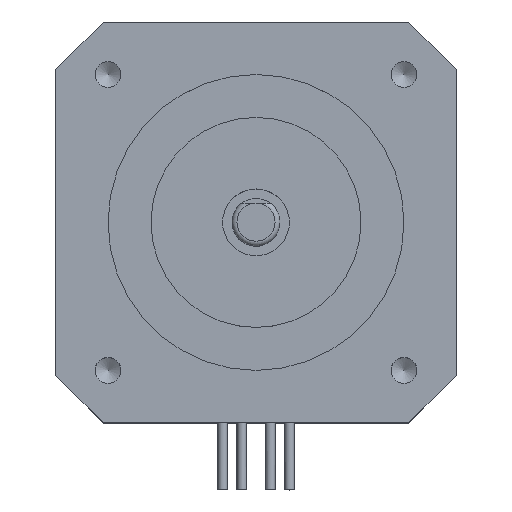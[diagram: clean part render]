
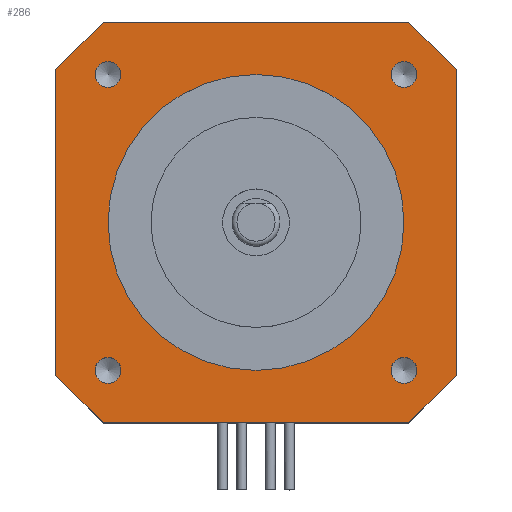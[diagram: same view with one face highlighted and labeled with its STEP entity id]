
A CAD part, top view. The second image highlights one B-rep face of the part: STEP entity #286.
In plain terms, the highlighted planar face has unit normal (0, 0, 1).
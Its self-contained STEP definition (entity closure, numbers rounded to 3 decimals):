
#142=FACE_BOUND('',#769,.T.);
#143=FACE_BOUND('',#770,.T.);
#144=FACE_BOUND('',#771,.T.);
#145=FACE_BOUND('',#772,.T.);
#146=FACE_BOUND('',#773,.T.);
#147=FACE_BOUND('',#774,.T.);
#226=CIRCLE('',#3421,1.35);
#227=CIRCLE('',#3422,1.35);
#228=CIRCLE('',#3423,1.35);
#229=CIRCLE('',#3424,1.35);
#230=CIRCLE('',#3425,15.5);
#286=ADVANCED_FACE('',(#142,#143,#144,#145,#146,#147),#465,.F.);
#465=PLANE('',#3426);
#769=EDGE_LOOP('',(#1175));
#770=EDGE_LOOP('',(#1176));
#771=EDGE_LOOP('',(#1177));
#772=EDGE_LOOP('',(#1178));
#773=EDGE_LOOP('',(#1179,#1180,#1181,#1182,#1183,#1184,#1185,#1186));
#774=EDGE_LOOP('',(#1187));
#1175=ORIENTED_EDGE('',*,*,#2342,.T.);
#1176=ORIENTED_EDGE('',*,*,#2343,.T.);
#1177=ORIENTED_EDGE('',*,*,#2344,.T.);
#1178=ORIENTED_EDGE('',*,*,#2345,.T.);
#1179=ORIENTED_EDGE('',*,*,#2346,.F.);
#1180=ORIENTED_EDGE('',*,*,#2347,.T.);
#1181=ORIENTED_EDGE('',*,*,#2348,.F.);
#1182=ORIENTED_EDGE('',*,*,#2349,.T.);
#1183=ORIENTED_EDGE('',*,*,#2350,.F.);
#1184=ORIENTED_EDGE('',*,*,#2351,.T.);
#1185=ORIENTED_EDGE('',*,*,#2352,.F.);
#1186=ORIENTED_EDGE('',*,*,#2353,.T.);
#1187=ORIENTED_EDGE('',*,*,#2354,.T.);
#2003=VERTEX_POINT('',#4842);
#2004=VERTEX_POINT('',#4844);
#2005=VERTEX_POINT('',#4846);
#2006=VERTEX_POINT('',#4848);
#2007=VERTEX_POINT('',#4850);
#2008=VERTEX_POINT('',#4851);
#2009=VERTEX_POINT('',#4853);
#2010=VERTEX_POINT('',#4855);
#2011=VERTEX_POINT('',#4857);
#2012=VERTEX_POINT('',#4859);
#2013=VERTEX_POINT('',#4861);
#2014=VERTEX_POINT('',#4863);
#2015=VERTEX_POINT('',#4866);
#2342=EDGE_CURVE('',#2003,#2003,#226,.T.);
#2343=EDGE_CURVE('',#2004,#2004,#227,.T.);
#2344=EDGE_CURVE('',#2005,#2005,#228,.T.);
#2345=EDGE_CURVE('',#2006,#2006,#229,.T.);
#2346=EDGE_CURVE('',#2007,#2008,#2759,.T.);
#2347=EDGE_CURVE('',#2007,#2009,#2760,.T.);
#2348=EDGE_CURVE('',#2010,#2009,#2761,.T.);
#2349=EDGE_CURVE('',#2010,#2011,#2762,.T.);
#2350=EDGE_CURVE('',#2012,#2011,#2763,.T.);
#2351=EDGE_CURVE('',#2012,#2013,#2764,.T.);
#2352=EDGE_CURVE('',#2014,#2013,#2765,.T.);
#2353=EDGE_CURVE('',#2014,#2008,#2766,.T.);
#2354=EDGE_CURVE('',#2015,#2015,#230,.T.);
#2759=LINE('',#4849,#3146);
#2760=LINE('',#4852,#3147);
#2761=LINE('',#4854,#3148);
#2762=LINE('',#4856,#3149);
#2763=LINE('',#4858,#3150);
#2764=LINE('',#4860,#3151);
#2765=LINE('',#4862,#3152);
#2766=LINE('',#4864,#3153);
#3146=VECTOR('',#3869,1.);
#3147=VECTOR('',#3870,1.);
#3148=VECTOR('',#3871,1.);
#3149=VECTOR('',#3872,1.);
#3150=VECTOR('',#3873,1.);
#3151=VECTOR('',#3874,1.);
#3152=VECTOR('',#3875,1.);
#3153=VECTOR('',#3876,1.);
#3421=AXIS2_PLACEMENT_3D('',#4841,#3861,#3862);
#3422=AXIS2_PLACEMENT_3D('',#4843,#3863,#3864);
#3423=AXIS2_PLACEMENT_3D('',#4845,#3865,#3866);
#3424=AXIS2_PLACEMENT_3D('',#4847,#3867,#3868);
#3425=AXIS2_PLACEMENT_3D('',#4865,#3877,#3878);
#3426=AXIS2_PLACEMENT_3D('',#4867,#3879,#3880);
#3861=DIRECTION('',(0.,0.,-1.));
#3862=DIRECTION('',(-1.,0.,0.));
#3863=DIRECTION('',(0.,0.,-1.));
#3864=DIRECTION('',(-1.,0.,0.));
#3865=DIRECTION('',(0.,0.,-1.));
#3866=DIRECTION('',(-1.,0.,0.));
#3867=DIRECTION('',(0.,0.,-1.));
#3868=DIRECTION('',(-1.,0.,0.));
#3869=DIRECTION('',(1.,0.,0.));
#3870=DIRECTION('',(-0.707,-0.707,0.));
#3871=DIRECTION('',(0.,1.,0.));
#3872=DIRECTION('',(0.707,-0.707,0.));
#3873=DIRECTION('',(-1.,0.,0.));
#3874=DIRECTION('',(0.707,0.707,0.));
#3875=DIRECTION('',(0.,-1.,0.));
#3876=DIRECTION('',(-0.707,0.707,0.));
#3877=DIRECTION('',(0.,0.,-1.));
#3878=DIRECTION('',(1.,0.,0.));
#3879=DIRECTION('',(0.,0.,-1.));
#3880=DIRECTION('',(-1.,0.,0.));
#4841=CARTESIAN_POINT('',(15.5,-15.5,0.));
#4842=CARTESIAN_POINT('',(14.15,-15.5,0.));
#4843=CARTESIAN_POINT('',(15.5,15.5,0.));
#4844=CARTESIAN_POINT('',(14.15,15.5,0.));
#4845=CARTESIAN_POINT('',(-15.5,15.5,0.));
#4846=CARTESIAN_POINT('',(-16.85,15.5,0.));
#4847=CARTESIAN_POINT('',(-15.5,-15.5,0.));
#4848=CARTESIAN_POINT('',(-16.85,-15.5,0.));
#4849=CARTESIAN_POINT('',(-21.,21.,0.));
#4850=CARTESIAN_POINT('',(-16.,21.,0.));
#4851=CARTESIAN_POINT('',(16.,21.,0.));
#4852=CARTESIAN_POINT('',(-16.,21.,0.));
#4853=CARTESIAN_POINT('',(-21.,16.,0.));
#4854=CARTESIAN_POINT('',(-21.,-21.,0.));
#4855=CARTESIAN_POINT('',(-21.,-16.,0.));
#4856=CARTESIAN_POINT('',(-21.,-16.,0.));
#4857=CARTESIAN_POINT('',(-16.,-21.,0.));
#4858=CARTESIAN_POINT('',(21.,-21.,0.));
#4859=CARTESIAN_POINT('',(16.,-21.,0.));
#4860=CARTESIAN_POINT('',(16.,-21.,0.));
#4861=CARTESIAN_POINT('',(21.,-16.,0.));
#4862=CARTESIAN_POINT('',(21.,21.,0.));
#4863=CARTESIAN_POINT('',(21.,16.,0.));
#4864=CARTESIAN_POINT('',(21.,16.,0.));
#4865=CARTESIAN_POINT('',(0.,0.,0.));
#4866=CARTESIAN_POINT('',(15.5,0.,0.));
#4867=CARTESIAN_POINT('',(-21.,-21.,0.));
